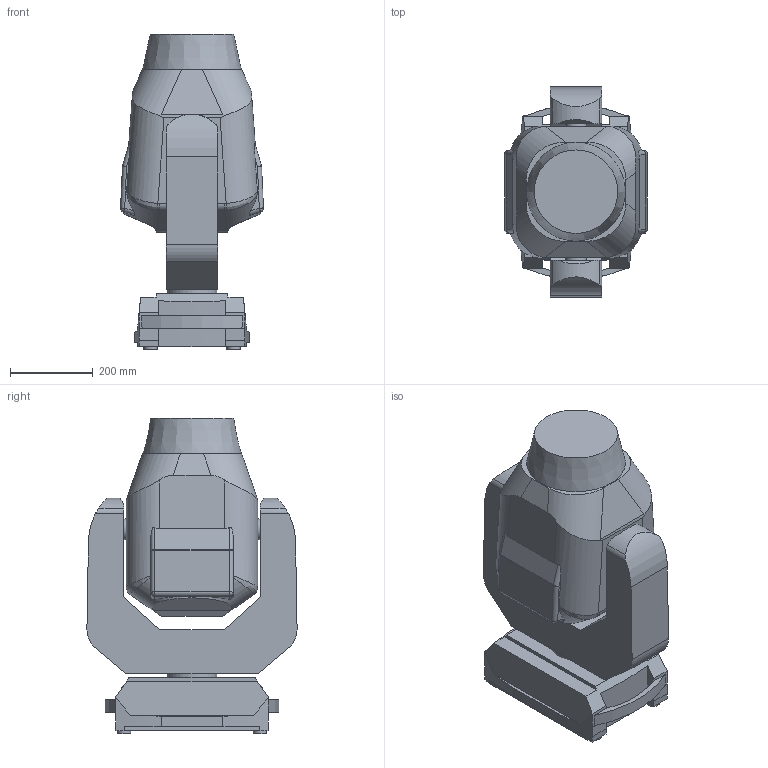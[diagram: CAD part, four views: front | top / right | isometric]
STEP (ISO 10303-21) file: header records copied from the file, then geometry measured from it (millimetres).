
FILE_DESCRIPTION(/* description */ ('Unknown'),/* implementation_level */ '2;1');
FILE_NAME(/* name */ '3D_iPointe_65',/* time_stamp */ '2021-02-04T09:53:23+01:00',/* author */ ('Ing.Rostislav HĂˇba'),/* organization */ ('ROBE lighting'),/* preprocessor_version */ 'ST-DEVELOPER v16.7',/* originating_system */ 'Solid Edge',/* authorisation */ 'Unknown');
FILE_SCHEMA (('AUTOMOTIVE_DESIGN {1 0 10303 214 3 1 1}'));
Length unit declared in the file: millimetre
Products named in the file (4): 3D_iPointe_65; Base iPointe; Arm iPointe; Head iPointe 65
Assembly tree (3 placements, depth 2):
  3D_iPointe_65
    Base iPointe
    Arm iPointe
    Head iPointe 65
Bounding box: 344.54 x 506.67 x 761.36 mm (x, y, z)
Volume: 60302654.9 mm3; surface area: 1469945.5 mm2
Topology: 3 solids, 3 shells, 181 faces, 479 edges, 306 vertices
Faces by surface type: plane 96, cylinder 68, bspline 8, sphere 8, cone 1
Full cylindrical faces by diameter (mm): 12 x4, 22 x1, 31.841 x4, 49.57 x2, 74 x1, 95 x1, 120.126 x1
Entity records: 5805 total; most frequent: CARTESIAN_POINT 1307, DIRECTION 942, ORIENTED_EDGE 896, EDGE_CURVE 448, AXIS2_PLACEMENT_3D 355, VERTEX_POINT 298, LINE 232, VECTOR 232
